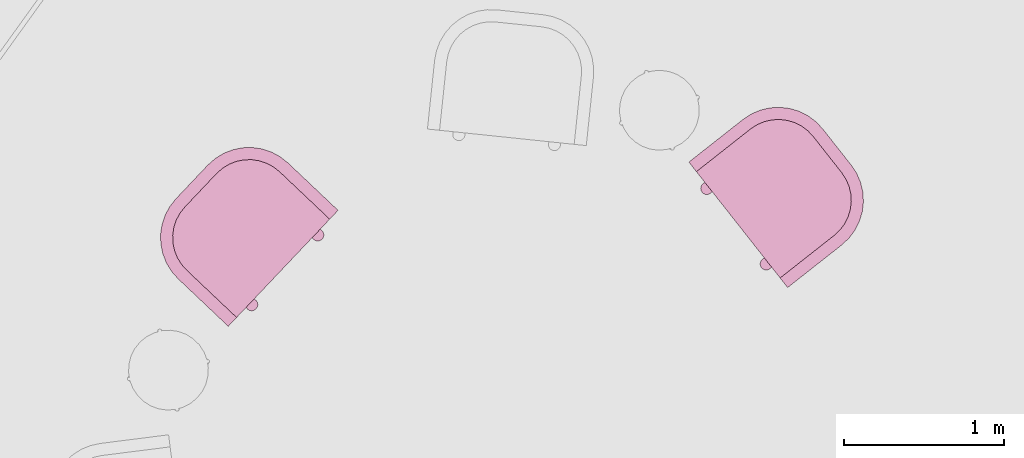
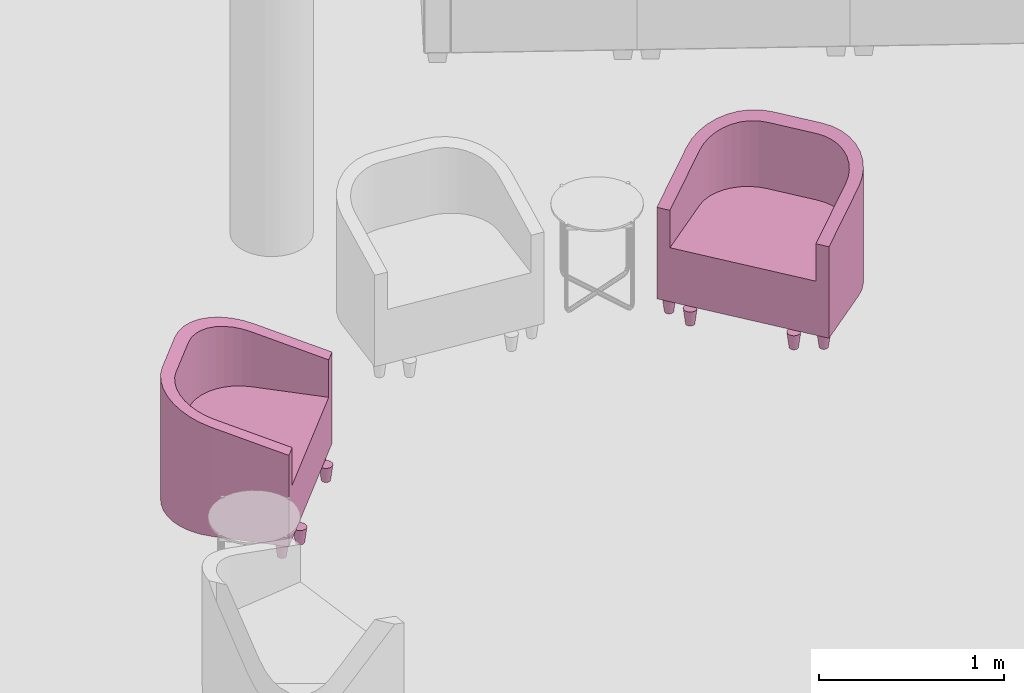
# One storey, part 29 of 52: 2 furnishings.
"""IFC2X3 building model written with IfcOpenShell, lengths in metres."""

from ifc_helpers import new_model, entity, si_unit, converted_unit, derived_unit, money_unit, direction, frame, origin_with_axes, place, context, subcontext, project, spatial, faceted_brep, source, transform, mapped, type_object, element, save


model = new_model("IFC2X3")

# Units and contexts
model_context = context("Model", 3, precision=1e-05, world=origin_with_axes(), true_north=direction((0.0, 1.0)))
body_context = subcontext(model_context, "Body", "Model", "MODEL_VIEW")
ifc_project = project(units=[si_unit("LENGTHUNIT", "METRE"), si_unit("AREAUNIT", "SQUARE_METRE"), si_unit("VOLUMEUNIT", "CUBIC_METRE"), converted_unit("PLANEANGLEUNIT", "DEGREE", entity("IfcPlaneAngleMeasure", 0.0174532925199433), si_unit("PLANEANGLEUNIT", "RADIAN"), dimensions=[0, 0, 0, 0, 0, 0, 0]), money_unit("EUR"), converted_unit("TIMEUNIT", "Year", entity("IfcTimeMeasure", 31556926.0), si_unit("TIMEUNIT", "SECOND"), dimensions=[0, 0, 1, 0, 0, 0, 0]), si_unit("MASSUNIT", "GRAM", prefix="KILO"), si_unit("THERMODYNAMICTEMPERATUREUNIT", "DEGREE_CELSIUS"), si_unit("LUMINOUSINTENSITYUNIT", "LUMEN"), si_unit("ENERGYUNIT", "JOULE", prefix="MEGA"), derived_unit("THERMALCONDUCTANCEUNIT", [(si_unit("POWERUNIT", "WATT"), 1), (si_unit("LENGTHUNIT", "METRE"), -1), (si_unit("THERMODYNAMICTEMPERATUREUNIT", "KELVIN"), -1)]), derived_unit("SPECIFICHEATCAPACITYUNIT", [(si_unit("ENERGYUNIT", "JOULE"), 1), (si_unit("MASSUNIT", "GRAM", prefix="KILO"), -1), (si_unit("THERMODYNAMICTEMPERATUREUNIT", "KELVIN"), -1)]), derived_unit("MASSDENSITYUNIT", [(si_unit("MASSUNIT", "GRAM", prefix="KILO"), 1), (si_unit("VOLUMEUNIT", "CUBIC_METRE"), -1)])], contexts=[model_context])

# Site, building, storey
site_placement = place(None, frame((-3.949935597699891, 1.740105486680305, 0.0), z_axis=(0.0, 0.0, 1.0), x_axis=(0.8799804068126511, -0.475009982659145, 0.0)))
site = spatial("IfcSite", under=ifc_project, at=site_placement, Name="Gelände", CompositionType="ELEMENT")
building_placement = place(site_placement, origin_with_axes())
building = spatial("IfcBuilding", under=site, at=building_placement, Name="Gebäude", CompositionType="ELEMENT")
storey_placement = place(building_placement, origin_with_axes())
storey = spatial("IfcBuildingStorey", under=building, at=storey_placement, Name="Erdgeschoss", CompositionType="ELEMENT", Elevation=0.0)

# Furnishings
furnishing_element_type = type_object("IfcFurnishingElementType", Name="bucket chair (1)")
shared_shape = source(origin_with_axes(), body_context, "Body", "Brep", [
    faceted_brep([(0.47421411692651, 0.73188933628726, 0.0), (0.4746, 0.7363000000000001, 0.0), (0.4873, 0.7363000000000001, 0.1016), (0.4867211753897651, 0.72968400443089, 0.1016), (0.473068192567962, 0.7276126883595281, 0.0), (0.4711970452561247, 0.7236000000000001, 0.0), (0.468657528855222, 0.719973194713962, 0.0), (0.4655268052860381, 0.7168424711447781, 0.0), (0.4619, 0.7143029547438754, 0.0), (0.457887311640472, 0.712431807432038, 0.0), (0.45361066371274, 0.71128588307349, 0.0), (0.4492, 0.7109000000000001, 0.0), (0.44478933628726, 0.71128588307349, 0.0), (0.440512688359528, 0.712431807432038, 0.0), (0.4365, 0.7143029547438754, 0.0), (0.4328731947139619, 0.7168424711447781, 0.0), (0.429742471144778, 0.719973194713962, 0.0), (0.4272029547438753, 0.7236000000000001, 0.0), (0.4253318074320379, 0.7276126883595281, 0.0), (0.4241858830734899, 0.73188933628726, 0.0), (0.4238, 0.7363000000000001, 0.0), (0.4241858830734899, 0.7407106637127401, 0.0), (0.4253318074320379, 0.744987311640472, 0.0), (0.4272029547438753, 0.7490000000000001, 0.0), (0.429742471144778, 0.7526268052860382, 0.0), (0.4328731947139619, 0.7557575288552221, 0.0), (0.4365, 0.7582970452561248, 0.0), (0.440512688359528, 0.7601681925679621, 0.0), (0.44478933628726, 0.7613141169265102, 0.0), (0.4492, 0.7617, 0.0), (0.45361066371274, 0.7613141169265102, 0.0), (0.457887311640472, 0.7601681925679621, 0.0), (0.4619, 0.7582970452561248, 0.0), (0.4655268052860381, 0.7557575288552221, 0.0), (0.468657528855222, 0.7526268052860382, 0.0), (0.4711970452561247, 0.7490000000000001, 0.0), (0.4730681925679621, 0.744987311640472, 0.0), (0.4742141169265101, 0.7407106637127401, 0.0), (0.4867211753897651, 0.7429159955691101, 0.1016), (0.4850022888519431, 0.749330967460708, 0.1016), (0.4821955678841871, 0.7553500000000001, 0.1016), (0.4783862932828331, 0.7607902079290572, 0.1016), (0.4736902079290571, 0.7654862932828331, 0.1016), (0.46825, 0.7692955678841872, 0.1016), (0.462230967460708, 0.7721022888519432, 0.1016), (0.45581599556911, 0.7738211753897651, 0.1016), (0.4492, 0.7744000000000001, 0.1016), (0.44258400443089, 0.7738211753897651, 0.1016), (0.436169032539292, 0.7721022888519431, 0.1016), (0.43015, 0.7692955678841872, 0.1016), (0.4247097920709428, 0.7654862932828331, 0.1016), (0.420013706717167, 0.7607902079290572, 0.1016), (0.4162044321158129, 0.7553500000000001, 0.1016), (0.4133977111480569, 0.749330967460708, 0.1016), (0.4116788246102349, 0.7429159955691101, 0.1016), (0.4111, 0.7363000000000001, 0.1016), (0.4116788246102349, 0.72968400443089, 0.1016), (0.4133977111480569, 0.7232690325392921, 0.1016), (0.4162044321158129, 0.71725, 0.1016), (0.420013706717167, 0.711809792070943, 0.1016), (0.4247097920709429, 0.707113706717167, 0.1016), (0.43015, 0.703304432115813, 0.1016), (0.436169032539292, 0.700497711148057, 0.1016), (0.44258400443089, 0.698778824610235, 0.1016), (0.4492, 0.6982000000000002, 0.1016), (0.45581599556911, 0.698778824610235, 0.1016), (0.462230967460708, 0.700497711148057, 0.1016), (0.4682499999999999, 0.7033044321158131, 0.1016), (0.4736902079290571, 0.707113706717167, 0.1016), (0.478386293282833, 0.711809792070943, 0.1016), (0.482195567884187, 0.71725, 0.1016), (0.485002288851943, 0.7232690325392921, 0.1016)], [[[0, 1, 2, 3]], [[0, 4, 5, 6, 7, 8, 9, 10, 11, 12, 13, 14, 15, 16, 17, 18, 19, 20, 21, 22, 23, 24, 25, 26, 27, 28, 29, 30, 31, 32, 33, 34, 35, 36, 37, 1]], [[1, 37, 38, 2]], [[3, 2, 38, 39, 40, 41, 42, 43, 44, 45, 46, 47, 48, 49, 50, 51, 52, 53, 54, 55, 56, 57, 58, 59, 60, 61, 62, 63, 64, 65, 66, 67, 68, 69, 70, 71]], [[4, 0, 3, 71]], [[5, 4, 71, 70]], [[6, 5, 70, 69]], [[7, 6, 69, 68]], [[8, 7, 68, 67]], [[9, 8, 67, 66]], [[10, 9, 66, 65]], [[11, 10, 65, 64]], [[12, 11, 64, 63]], [[13, 12, 63, 62]], [[14, 13, 62, 61]], [[15, 14, 61, 60]], [[16, 15, 60, 59]], [[17, 16, 59, 58]], [[18, 17, 58, 57]], [[19, 18, 57, 56]], [[20, 19, 56, 55]], [[21, 20, 55, 54]], [[22, 21, 54, 53]], [[23, 22, 53, 52]], [[24, 23, 52, 51]], [[25, 24, 51, 50]], [[26, 25, 50, 49]], [[27, 26, 49, 48]], [[28, 27, 48, 47]], [[29, 28, 47, 46]], [[30, 29, 46, 45]], [[31, 30, 45, 44]], [[32, 31, 44, 43]], [[33, 32, 43, 42]], [[34, 33, 42, 41]], [[35, 34, 41, 40]], [[36, 35, 40, 39]], [[37, 36, 39, 38]]]),
    faceted_brep([(-0.42418588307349, 0.73188933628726, 0.0), (-0.4238, 0.7363000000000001, 0.0), (-0.4111, 0.7363000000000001, 0.1016), (-0.4116788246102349, 0.72968400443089, 0.1016), (-0.425331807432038, 0.7276126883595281, 0.0), (-0.4272029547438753, 0.7236000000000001, 0.0), (-0.429742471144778, 0.719973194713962, 0.0), (-0.4328731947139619, 0.7168424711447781, 0.0), (-0.4365, 0.7143029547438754, 0.0), (-0.440512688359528, 0.712431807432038, 0.0), (-0.44478933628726, 0.71128588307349, 0.0), (-0.4492, 0.7109000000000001, 0.0), (-0.45361066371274, 0.71128588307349, 0.0), (-0.457887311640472, 0.712431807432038, 0.0), (-0.4619, 0.7143029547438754, 0.0), (-0.4655268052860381, 0.7168424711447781, 0.0), (-0.468657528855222, 0.719973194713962, 0.0), (-0.4711970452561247, 0.7236000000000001, 0.0), (-0.4730681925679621, 0.7276126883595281, 0.0), (-0.4742141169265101, 0.73188933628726, 0.0), (-0.4746, 0.7363000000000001, 0.0), (-0.4742141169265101, 0.7407106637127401, 0.0), (-0.4730681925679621, 0.744987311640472, 0.0), (-0.4711970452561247, 0.7490000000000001, 0.0), (-0.468657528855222, 0.7526268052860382, 0.0), (-0.4655268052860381, 0.7557575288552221, 0.0), (-0.4619, 0.7582970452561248, 0.0), (-0.457887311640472, 0.7601681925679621, 0.0), (-0.45361066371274, 0.7613141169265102, 0.0), (-0.4492, 0.7617, 0.0), (-0.44478933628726, 0.7613141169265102, 0.0), (-0.440512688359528, 0.7601681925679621, 0.0), (-0.4365, 0.7582970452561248, 0.0), (-0.4328731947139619, 0.7557575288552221, 0.0), (-0.4297424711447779, 0.7526268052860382, 0.0), (-0.4272029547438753, 0.7490000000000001, 0.0), (-0.4253318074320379, 0.744987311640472, 0.0), (-0.4241858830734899, 0.7407106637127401, 0.0), (-0.4116788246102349, 0.7429159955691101, 0.1016), (-0.4133977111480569, 0.749330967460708, 0.1016), (-0.4162044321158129, 0.7553500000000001, 0.1016), (-0.4200137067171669, 0.7607902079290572, 0.1016), (-0.4247097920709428, 0.7654862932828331, 0.1016), (-0.43015, 0.7692955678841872, 0.1016), (-0.436169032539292, 0.7721022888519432, 0.1016), (-0.44258400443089, 0.7738211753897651, 0.1016), (-0.4492, 0.7744000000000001, 0.1016), (-0.45581599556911, 0.7738211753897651, 0.1016), (-0.462230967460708, 0.7721022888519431, 0.1016), (-0.4682499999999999, 0.7692955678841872, 0.1016), (-0.4736902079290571, 0.7654862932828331, 0.1016), (-0.478386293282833, 0.7607902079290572, 0.1016), (-0.482195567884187, 0.7553500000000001, 0.1016), (-0.4850022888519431, 0.749330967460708, 0.1016), (-0.4867211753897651, 0.7429159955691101, 0.1016), (-0.4873, 0.7363000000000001, 0.1016), (-0.4867211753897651, 0.72968400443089, 0.1016), (-0.4850022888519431, 0.7232690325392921, 0.1016), (-0.482195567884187, 0.71725, 0.1016), (-0.478386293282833, 0.711809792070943, 0.1016), (-0.4736902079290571, 0.707113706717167, 0.1016), (-0.4682499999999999, 0.703304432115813, 0.1016), (-0.462230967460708, 0.700497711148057, 0.1016), (-0.45581599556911, 0.698778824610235, 0.1016), (-0.4492, 0.6982000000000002, 0.1016), (-0.44258400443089, 0.698778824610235, 0.1016), (-0.436169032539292, 0.700497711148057, 0.1016), (-0.43015, 0.7033044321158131, 0.1016), (-0.4247097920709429, 0.707113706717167, 0.1016), (-0.420013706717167, 0.711809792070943, 0.1016), (-0.4162044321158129, 0.71725, 0.1016), (-0.413397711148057, 0.7232690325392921, 0.1016)], [[[0, 1, 2, 3]], [[0, 4, 5, 6, 7, 8, 9, 10, 11, 12, 13, 14, 15, 16, 17, 18, 19, 20, 21, 22, 23, 24, 25, 26, 27, 28, 29, 30, 31, 32, 33, 34, 35, 36, 37, 1]], [[1, 37, 38, 2]], [[3, 2, 38, 39, 40, 41, 42, 43, 44, 45, 46, 47, 48, 49, 50, 51, 52, 53, 54, 55, 56, 57, 58, 59, 60, 61, 62, 63, 64, 65, 66, 67, 68, 69, 70, 71]], [[4, 0, 3, 71]], [[5, 4, 71, 70]], [[6, 5, 70, 69]], [[7, 6, 69, 68]], [[8, 7, 68, 67]], [[9, 8, 67, 66]], [[10, 9, 66, 65]], [[11, 10, 65, 64]], [[12, 11, 64, 63]], [[13, 12, 63, 62]], [[14, 13, 62, 61]], [[15, 14, 61, 60]], [[16, 15, 60, 59]], [[17, 16, 59, 58]], [[18, 17, 58, 57]], [[19, 18, 57, 56]], [[20, 19, 56, 55]], [[21, 20, 55, 54]], [[22, 21, 54, 53]], [[23, 22, 53, 52]], [[24, 23, 52, 51]], [[25, 24, 51, 50]], [[26, 25, 50, 49]], [[27, 26, 49, 48]], [[28, 27, 48, 47]], [[29, 28, 47, 46]], [[30, 29, 46, 45]], [[31, 30, 45, 44]], [[32, 31, 44, 43]], [[33, 32, 43, 42]], [[34, 33, 42, 41]], [[35, 34, 41, 40]], [[36, 35, 40, 39]], [[37, 36, 39, 38]]]),
    faceted_brep([(0.3258141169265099, 0.7963893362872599, 0.0), (0.3261999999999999, 0.8008, 0.0), (0.3388999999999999, 0.8008, 0.1016), (0.338321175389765, 0.7941840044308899, 0.1016), (0.3246681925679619, 0.792112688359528, 0.0), (0.3227970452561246, 0.7881, 0.0), (0.3202575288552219, 0.7844731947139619, 0.0), (0.317126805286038, 0.781342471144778, 0.0), (0.3134999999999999, 0.7788029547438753, 0.0), (0.3094873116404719, 0.7769318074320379, 0.0), (0.3052106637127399, 0.77578588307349, 0.0), (0.3007999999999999, 0.7754, 0.0), (0.2963893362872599, 0.77578588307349, 0.0), (0.2921126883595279, 0.7769318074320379, 0.0), (0.2880999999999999, 0.7788029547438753, 0.0), (0.2844731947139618, 0.781342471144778, 0.0), (0.2813424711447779, 0.7844731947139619, 0.0), (0.2788029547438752, 0.7881, 0.0), (0.2769318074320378, 0.792112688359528, 0.0), (0.2757858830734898, 0.7963893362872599, 0.0), (0.2753999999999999, 0.8008, 0.0), (0.2757858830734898, 0.80521066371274, 0.0), (0.2769318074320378, 0.8094873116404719, 0.0), (0.2788029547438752, 0.8135, 0.0), (0.2813424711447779, 0.8171268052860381, 0.0), (0.2844731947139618, 0.820257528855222, 0.0), (0.2880999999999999, 0.8227970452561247, 0.0), (0.2921126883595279, 0.824668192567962, 0.0), (0.2963893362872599, 0.8258141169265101, 0.0), (0.3007999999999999, 0.8261999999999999, 0.0), (0.3052106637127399, 0.8258141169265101, 0.0), (0.3094873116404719, 0.824668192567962, 0.0), (0.3134999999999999, 0.8227970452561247, 0.0), (0.317126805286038, 0.820257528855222, 0.0), (0.320257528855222, 0.8171268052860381, 0.0), (0.3227970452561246, 0.8135, 0.0), (0.324668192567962, 0.8094873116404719, 0.0), (0.32581411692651, 0.80521066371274, 0.0), (0.338321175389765, 0.80741599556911, 0.1016), (0.336602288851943, 0.8138309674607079, 0.1016), (0.333795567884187, 0.81985, 0.1016), (0.329986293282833, 0.825290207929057, 0.1016), (0.3252902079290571, 0.829986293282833, 0.1016), (0.3198499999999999, 0.8337955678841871, 0.1016), (0.3138309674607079, 0.8366022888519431, 0.1016), (0.3074159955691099, 0.838321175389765, 0.1016), (0.3007999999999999, 0.8389, 0.1016), (0.2941840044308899, 0.838321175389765, 0.1016), (0.2877690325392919, 0.8366022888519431, 0.1016), (0.2817499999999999, 0.8337955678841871, 0.1016), (0.2763097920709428, 0.829986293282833, 0.1016), (0.2716137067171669, 0.825290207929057, 0.1016), (0.2678044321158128, 0.81985, 0.1016), (0.2649977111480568, 0.8138309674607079, 0.1016), (0.2632788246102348, 0.80741599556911, 0.1016), (0.2626999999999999, 0.8008, 0.1016), (0.2632788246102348, 0.7941840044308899, 0.1016), (0.2649977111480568, 0.787769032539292, 0.1016), (0.2678044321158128, 0.78175, 0.1016), (0.2716137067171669, 0.7763097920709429, 0.1016), (0.2763097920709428, 0.7716137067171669, 0.1016), (0.2817499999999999, 0.7678044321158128, 0.1016), (0.2877690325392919, 0.7649977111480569, 0.1016), (0.2941840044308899, 0.7632788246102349, 0.1016), (0.3007999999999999, 0.7627, 0.1016), (0.3074159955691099, 0.7632788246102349, 0.1016), (0.3138309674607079, 0.7649977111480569, 0.1016), (0.3198499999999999, 0.767804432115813, 0.1016), (0.325290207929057, 0.7716137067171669, 0.1016), (0.3299862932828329, 0.7763097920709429, 0.1016), (0.333795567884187, 0.78175, 0.1016), (0.3366022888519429, 0.787769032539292, 0.1016)], [[[0, 1, 2, 3]], [[0, 4, 5, 6, 7, 8, 9, 10, 11, 12, 13, 14, 15, 16, 17, 18, 19, 20, 21, 22, 23, 24, 25, 26, 27, 28, 29, 30, 31, 32, 33, 34, 35, 36, 37, 1]], [[1, 37, 38, 2]], [[3, 2, 38, 39, 40, 41, 42, 43, 44, 45, 46, 47, 48, 49, 50, 51, 52, 53, 54, 55, 56, 57, 58, 59, 60, 61, 62, 63, 64, 65, 66, 67, 68, 69, 70, 71]], [[4, 0, 3, 71]], [[5, 4, 71, 70]], [[6, 5, 70, 69]], [[7, 6, 69, 68]], [[8, 7, 68, 67]], [[9, 8, 67, 66]], [[10, 9, 66, 65]], [[11, 10, 65, 64]], [[12, 11, 64, 63]], [[13, 12, 63, 62]], [[14, 13, 62, 61]], [[15, 14, 61, 60]], [[16, 15, 60, 59]], [[17, 16, 59, 58]], [[18, 17, 58, 57]], [[19, 18, 57, 56]], [[20, 19, 56, 55]], [[21, 20, 55, 54]], [[22, 21, 54, 53]], [[23, 22, 53, 52]], [[24, 23, 52, 51]], [[25, 24, 51, 50]], [[26, 25, 50, 49]], [[27, 26, 49, 48]], [[28, 27, 48, 47]], [[29, 28, 47, 46]], [[30, 29, 46, 45]], [[31, 30, 45, 44]], [[32, 31, 44, 43]], [[33, 32, 43, 42]], [[34, 33, 42, 41]], [[35, 34, 41, 40]], [[36, 35, 40, 39]], [[37, 36, 39, 38]]]),
    faceted_brep([(-0.2757858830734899, 0.7963893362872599, 0.0), (-0.2753999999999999, 0.8008, 0.0), (-0.2626999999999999, 0.8008, 0.1016), (-0.2632788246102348, 0.7941840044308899, 0.1016), (-0.2769318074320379, 0.792112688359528, 0.0), (-0.2788029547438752, 0.7881, 0.0), (-0.2813424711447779, 0.7844731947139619, 0.0), (-0.2844731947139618, 0.781342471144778, 0.0), (-0.2880999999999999, 0.7788029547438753, 0.0), (-0.2921126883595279, 0.7769318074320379, 0.0), (-0.2963893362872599, 0.77578588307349, 0.0), (-0.3007999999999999, 0.7754, 0.0), (-0.3052106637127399, 0.77578588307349, 0.0), (-0.3094873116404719, 0.7769318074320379, 0.0), (-0.3134999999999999, 0.7788029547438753, 0.0), (-0.317126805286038, 0.781342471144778, 0.0), (-0.3202575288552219, 0.7844731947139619, 0.0), (-0.3227970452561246, 0.7881, 0.0), (-0.324668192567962, 0.792112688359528, 0.0), (-0.32581411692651, 0.7963893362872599, 0.0), (-0.3261999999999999, 0.8008, 0.0), (-0.32581411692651, 0.80521066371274, 0.0), (-0.324668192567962, 0.8094873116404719, 0.0), (-0.3227970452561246, 0.8135, 0.0), (-0.3202575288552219, 0.8171268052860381, 0.0), (-0.317126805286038, 0.820257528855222, 0.0), (-0.3134999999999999, 0.8227970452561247, 0.0), (-0.3094873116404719, 0.824668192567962, 0.0), (-0.3052106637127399, 0.8258141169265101, 0.0), (-0.3007999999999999, 0.8261999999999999, 0.0), (-0.2963893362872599, 0.8258141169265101, 0.0), (-0.2921126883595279, 0.824668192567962, 0.0), (-0.2880999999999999, 0.8227970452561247, 0.0), (-0.2844731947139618, 0.820257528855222, 0.0), (-0.2813424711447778, 0.8171268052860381, 0.0), (-0.2788029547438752, 0.8135, 0.0), (-0.2769318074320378, 0.8094873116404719, 0.0), (-0.2757858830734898, 0.80521066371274, 0.0), (-0.2632788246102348, 0.80741599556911, 0.1016), (-0.2649977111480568, 0.8138309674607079, 0.1016), (-0.2678044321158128, 0.81985, 0.1016), (-0.2716137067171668, 0.825290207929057, 0.1016), (-0.2763097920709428, 0.829986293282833, 0.1016), (-0.2817499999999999, 0.8337955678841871, 0.1016), (-0.2877690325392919, 0.8366022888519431, 0.1016), (-0.2941840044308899, 0.838321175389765, 0.1016), (-0.3007999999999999, 0.8389, 0.1016), (-0.3074159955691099, 0.838321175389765, 0.1016), (-0.3138309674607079, 0.8366022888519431, 0.1016), (-0.3198499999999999, 0.8337955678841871, 0.1016), (-0.3252902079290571, 0.829986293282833, 0.1016), (-0.3299862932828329, 0.825290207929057, 0.1016), (-0.333795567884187, 0.81985, 0.1016), (-0.336602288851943, 0.8138309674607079, 0.1016), (-0.338321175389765, 0.80741599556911, 0.1016), (-0.3388999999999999, 0.8008, 0.1016), (-0.338321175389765, 0.7941840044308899, 0.1016), (-0.336602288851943, 0.787769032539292, 0.1016), (-0.333795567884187, 0.78175, 0.1016), (-0.3299862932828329, 0.7763097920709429, 0.1016), (-0.325290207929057, 0.7716137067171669, 0.1016), (-0.3198499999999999, 0.7678044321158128, 0.1016), (-0.3138309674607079, 0.7649977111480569, 0.1016), (-0.3074159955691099, 0.7632788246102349, 0.1016), (-0.3007999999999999, 0.7627, 0.1016), (-0.2941840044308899, 0.7632788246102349, 0.1016), (-0.2877690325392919, 0.7649977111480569, 0.1016), (-0.2817499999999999, 0.767804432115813, 0.1016), (-0.2763097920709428, 0.7716137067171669, 0.1016), (-0.2716137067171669, 0.7763097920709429, 0.1016), (-0.2678044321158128, 0.78175, 0.1016), (-0.2649977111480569, 0.787769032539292, 0.1016)], [[[0, 1, 2, 3]], [[0, 4, 5, 6, 7, 8, 9, 10, 11, 12, 13, 14, 15, 16, 17, 18, 19, 20, 21, 22, 23, 24, 25, 26, 27, 28, 29, 30, 31, 32, 33, 34, 35, 36, 37, 1]], [[1, 37, 38, 2]], [[3, 2, 38, 39, 40, 41, 42, 43, 44, 45, 46, 47, 48, 49, 50, 51, 52, 53, 54, 55, 56, 57, 58, 59, 60, 61, 62, 63, 64, 65, 66, 67, 68, 69, 70, 71]], [[4, 0, 3, 71]], [[5, 4, 71, 70]], [[6, 5, 70, 69]], [[7, 6, 69, 68]], [[8, 7, 68, 67]], [[9, 8, 67, 66]], [[10, 9, 66, 65]], [[11, 10, 65, 64]], [[12, 11, 64, 63]], [[13, 12, 63, 62]], [[14, 13, 62, 61]], [[15, 14, 61, 60]], [[16, 15, 60, 59]], [[17, 16, 59, 58]], [[18, 17, 58, 57]], [[19, 18, 57, 56]], [[20, 19, 56, 55]], [[21, 20, 55, 54]], [[22, 21, 54, 53]], [[23, 22, 53, 52]], [[24, 23, 52, 51]], [[25, 24, 51, 50]], [[26, 25, 50, 49]], [[27, 26, 49, 48]], [[28, 27, 48, 47]], [[29, 28, 47, 46]], [[30, 29, 46, 45]], [[31, 30, 45, 44]], [[32, 31, 44, 43]], [[33, 32, 43, 42]], [[34, 33, 42, 41]], [[35, 34, 41, 40]], [[36, 35, 40, 39]], [[37, 36, 39, 38]]]),
    faceted_brep([(-0.5, 0.7871, 0.1016), (-0.5, 0.3556, 0.1016), (-0.5, 0.3556, 0.8191172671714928), (-0.5, 0.7871, 0.7034971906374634), (-0.4238, 0.7871, 0.1016), (-0.4238, 0.3556000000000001, 0.1016), (-0.4195552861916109, 0.3070826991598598, 0.1016), (-0.4069501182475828, 0.2600395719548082, 0.1016), (-0.3863674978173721, 0.2159000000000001, 0.1016), (-0.3584328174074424, 0.176005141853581, 0.1016), (-0.323994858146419, 0.1415671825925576, 0.1016), (-0.2841, 0.1136325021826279, 0.1016), (-0.2399604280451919, 0.09304988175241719, 0.1016), (-0.1929173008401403, 0.08044471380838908, 0.1016), (-0.1444, 0.0762, 0.1016), (0.1444000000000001, 0.07620000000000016, 0.1016), (0.1929173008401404, 0.08044471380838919, 0.1016), (0.2399604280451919, 0.0930498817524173, 0.1016), (0.2841, 0.1136325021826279, 0.1016), (0.3239948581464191, 0.1415671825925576, 0.1016), (0.3584328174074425, 0.176005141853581, 0.1016), (0.3863674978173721, 0.2159000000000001, 0.1016), (0.4069501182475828, 0.2600395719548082, 0.1016), (0.4195552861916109, 0.3070826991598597, 0.1016), (0.4238, 0.3556, 0.1016), (0.4238, 0.7871, 0.1016), (0.5, 0.7871, 0.1016), (0.4999999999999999, 0.3555999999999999, 0.1016), (0.494597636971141, 0.2938507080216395, 0.1016), (0.4785546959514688, 0.2339776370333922, 0.1016), (0.4523586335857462, 0.1778, 0.1016), (0.4168054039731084, 0.1270247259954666, 0.1016), (0.3729752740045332, 0.08319459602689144, 0.1016), (0.3221999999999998, 0.04764136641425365, 0.1016), (0.2660223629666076, 0.02144530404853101, 0.1016), (0.2061492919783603, 0.005402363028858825, 0.1016), (0.1444, 0.0, 0.1016), (0.0, 0.0, 0.1016), (-0.1444000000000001, 0.0, 0.1016), (-0.2061492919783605, 0.005402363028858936, 0.1016), (-0.2660223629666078, 0.02144530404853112, 0.1016), (-0.3222, 0.04764136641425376, 0.1016), (-0.3729752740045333, 0.08319459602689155, 0.1016), (-0.4168054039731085, 0.1270247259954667, 0.1016), (-0.4523586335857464, 0.1778000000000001, 0.1016), (-0.4785546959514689, 0.2339776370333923, 0.1016), (-0.4945976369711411, 0.2938507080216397, 0.1016), (-0.4945976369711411, 0.2938507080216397, 0.8356629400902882), (-0.4785546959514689, 0.2339776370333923, 0.8517058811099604), (-0.4523586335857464, 0.1778000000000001, 0.8667586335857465), (-0.4168054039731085, 0.1270247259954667, 0.8803638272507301), (-0.3729752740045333, 0.08319459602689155, 0.892108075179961), (-0.3222, 0.04764136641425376, 0.9016345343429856), (-0.2660223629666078, 0.02144530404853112, 0.9086537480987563), (-0.2061492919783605, 0.005402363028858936, 0.9129524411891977), (-0.1444000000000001, 0.0, 0.9144000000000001), (0.0, 0.0, 0.9144000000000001), (0.1444, 0.0, 0.9144000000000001), (0.2061492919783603, 0.005402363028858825, 0.9129524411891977), (0.2660223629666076, 0.02144530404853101, 0.9086537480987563), (0.3221999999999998, 0.04764136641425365, 0.9016345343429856), (0.3729752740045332, 0.08319459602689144, 0.8921080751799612), (0.4168054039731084, 0.1270247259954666, 0.8803638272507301), (0.4523586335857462, 0.1778, 0.8667586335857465), (0.4785546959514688, 0.2339776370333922, 0.8517058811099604), (0.494597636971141, 0.2938507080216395, 0.8356629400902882), (0.4999999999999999, 0.3555999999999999, 0.8191172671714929), (0.5, 0.7871, 0.7034971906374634), (0.4238, 0.7871, 0.7034971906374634), (0.4238, 0.3556, 0.8191172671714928), (0.4195552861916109, 0.3070826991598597, 0.8321174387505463), (0.4069501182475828, 0.2600395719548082, 0.8447226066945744), (0.3863674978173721, 0.2159000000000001, 0.8565497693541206), (0.3584328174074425, 0.176005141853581, 0.8672395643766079), (0.3239948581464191, 0.1415671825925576, 0.8764671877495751), (0.2841, 0.1136325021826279, 0.8839522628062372), (0.2399604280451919, 0.0930498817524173, 0.8894673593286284), (0.1929173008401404, 0.08044471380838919, 0.8928449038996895), (0.1444000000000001, 0.07620000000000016, 0.8939822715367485), (-0.1444, 0.0762, 0.8939822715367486), (-0.1929173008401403, 0.08044471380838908, 0.8928449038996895), (-0.2399604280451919, 0.09304988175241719, 0.8894673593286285), (-0.2841, 0.1136325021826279, 0.8839522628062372), (-0.323994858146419, 0.1415671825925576, 0.8764671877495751), (-0.3584328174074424, 0.176005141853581, 0.8672395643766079), (-0.3863674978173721, 0.2159000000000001, 0.8565497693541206), (-0.4069501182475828, 0.2600395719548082, 0.8447226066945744), (-0.4195552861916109, 0.3070826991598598, 0.8321174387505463), (-0.4238, 0.3556000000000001, 0.8191172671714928), (-0.4238, 0.7871, 0.7034971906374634)], [[[0, 1, 2, 3]], [[0, 4, 5, 6, 7, 8, 9, 10, 11, 12, 13, 14, 15, 16, 17, 18, 19, 20, 21, 22, 23, 24, 25, 26, 27, 28, 29, 30, 31, 32, 33, 34, 35, 36, 37, 38, 39, 40, 41, 42, 43, 44, 45, 46, 1]], [[1, 46, 47, 2]], [[3, 2, 47, 48, 49, 50, 51, 52, 53, 54, 55, 56, 57, 58, 59, 60, 61, 62, 63, 64, 65, 66, 67, 68, 69, 70, 71, 72, 73, 74, 75, 76, 77, 78, 79, 80, 81, 82, 83, 84, 85, 86, 87, 88, 89]], [[4, 0, 3, 89]], [[5, 4, 89, 88]], [[6, 5, 88, 87]], [[7, 6, 87, 86]], [[8, 7, 86, 85]], [[9, 8, 85, 84]], [[10, 9, 84, 83]], [[11, 10, 83, 82]], [[12, 11, 82, 81]], [[13, 12, 81, 80]], [[14, 13, 80, 79]], [[15, 14, 79, 78]], [[16, 15, 78, 77]], [[17, 16, 77, 76]], [[18, 17, 76, 75]], [[19, 18, 75, 74]], [[20, 19, 74, 73]], [[21, 20, 73, 72]], [[22, 21, 72, 71]], [[23, 22, 71, 70]], [[24, 23, 70, 69]], [[25, 24, 69, 68]], [[26, 25, 68, 67]], [[27, 26, 67, 66]], [[28, 27, 66, 65]], [[29, 28, 65, 64]], [[30, 29, 64, 63]], [[31, 30, 63, 62]], [[32, 31, 62, 61]], [[33, 32, 61, 60]], [[34, 33, 60, 59]], [[35, 34, 59, 58]], [[36, 35, 58, 57]], [[37, 36, 57, 56]], [[38, 37, 56, 55]], [[39, 38, 55, 54]], [[40, 39, 54, 53]], [[41, 40, 53, 52]], [[42, 41, 52, 51]], [[43, 42, 51, 50]], [[44, 43, 50, 49]], [[45, 44, 49, 48]], [[46, 45, 48, 47]]]),
    faceted_brep([(-0.4238, 0.7871, 0.1016), (-0.4238, 0.3556000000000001, 0.1016), (-0.4238, 0.3556000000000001, 0.4572000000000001), (-0.4238, 0.7871, 0.4572000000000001), (0.4238, 0.7871, 0.1016), (0.4238, 0.3556, 0.1016), (0.4195552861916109, 0.3070826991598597, 0.1016), (0.4069501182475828, 0.2600395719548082, 0.1016), (0.3863674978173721, 0.2159000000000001, 0.1016), (0.3584328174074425, 0.176005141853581, 0.1016), (0.3239948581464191, 0.1415671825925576, 0.1016), (0.2841, 0.1136325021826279, 0.1016), (0.2399604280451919, 0.0930498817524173, 0.1016), (0.1929173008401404, 0.08044471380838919, 0.1016), (0.1444000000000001, 0.07620000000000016, 0.1016), (-0.1444, 0.0762, 0.1016), (-0.1929173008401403, 0.08044471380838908, 0.1016), (-0.2399604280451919, 0.09304988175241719, 0.1016), (-0.2841, 0.1136325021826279, 0.1016), (-0.323994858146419, 0.1415671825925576, 0.1016), (-0.3584328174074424, 0.176005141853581, 0.1016), (-0.3863674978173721, 0.2159000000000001, 0.1016), (-0.4069501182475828, 0.2600395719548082, 0.1016), (-0.4195552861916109, 0.3070826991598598, 0.1016), (-0.4195552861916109, 0.3070826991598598, 0.4572000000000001), (-0.4069501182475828, 0.2600395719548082, 0.4572000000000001), (-0.3863674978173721, 0.2159000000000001, 0.4572000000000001), (-0.3584328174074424, 0.176005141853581, 0.4572000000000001), (-0.323994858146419, 0.1415671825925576, 0.4572000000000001), (-0.2841, 0.1136325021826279, 0.4572000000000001), (-0.2399604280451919, 0.09304988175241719, 0.4572000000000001), (-0.1929173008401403, 0.08044471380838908, 0.4572000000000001), (-0.1444, 0.0762, 0.4572000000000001), (0.1444000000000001, 0.07620000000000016, 0.4572000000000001), (0.1929173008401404, 0.08044471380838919, 0.4572000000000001), (0.2399604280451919, 0.0930498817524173, 0.4572000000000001), (0.2841, 0.1136325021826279, 0.4572000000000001), (0.3239948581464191, 0.1415671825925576, 0.4572000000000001), (0.3584328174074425, 0.176005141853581, 0.4572000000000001), (0.3863674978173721, 0.2159000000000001, 0.4572000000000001), (0.4069501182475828, 0.2600395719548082, 0.4572000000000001), (0.4195552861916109, 0.3070826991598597, 0.4572000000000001), (0.4238, 0.3556, 0.4572000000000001), (0.4238, 0.7871, 0.4572000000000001)], [[[0, 1, 2, 3]], [[0, 4, 5, 6, 7, 8, 9, 10, 11, 12, 13, 14, 15, 16, 17, 18, 19, 20, 21, 22, 23, 1]], [[1, 23, 24, 2]], [[3, 2, 24, 25, 26, 27, 28, 29, 30, 31, 32, 33, 34, 35, 36, 37, 38, 39, 40, 41, 42, 43]], [[4, 0, 3, 43]], [[5, 4, 43, 42]], [[6, 5, 42, 41]], [[7, 6, 41, 40]], [[8, 7, 40, 39]], [[9, 8, 39, 38]], [[10, 9, 38, 37]], [[11, 10, 37, 36]], [[12, 11, 36, 35]], [[13, 12, 35, 34]], [[14, 13, 34, 33]], [[15, 14, 33, 32]], [[16, 15, 32, 31]], [[17, 16, 31, 30]], [[18, 17, 30, 29]], [[19, 18, 29, 28]], [[20, 19, 28, 27]], [[21, 20, 27, 26]], [[22, 21, 26, 25]], [[23, 22, 25, 24]]]),
])
for number, where, z_axis, x_axis, name in (
    (1, (22.21138066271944, 4.497081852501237, 0.0), (0.0, 0.0, 1.0), (-0.2601094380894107, -0.9655791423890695, 0.0), "Objekt-0069"),
    (2, (25.66257530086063, 6.607977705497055, 0.0), (0.0, 0.0, 1.0), (-0.9175923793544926, 0.3975226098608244, 0.0), "Objekt-0069"),
):
    element("IfcFurnishingElement", number, at=place(storey_placement, frame(where, z_axis=z_axis, x_axis=x_axis)), inside=storey, type_object=furnishing_element_type, Name=name, context=body_context, shape_type="MappedRepresentation", body=[
        mapped(shared_shape, transform((0.0, 0.0, 0.0))),
    ])

save(model, "model.ifc")
